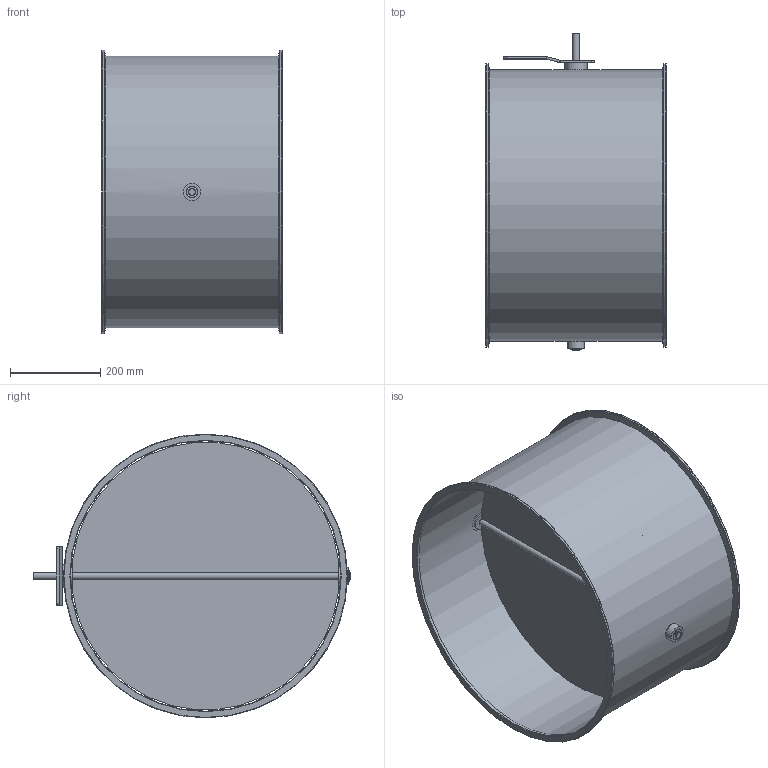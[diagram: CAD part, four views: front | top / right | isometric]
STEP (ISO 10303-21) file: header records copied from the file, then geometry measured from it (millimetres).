
FILE_DESCRIPTION(/* description */ (''),/* implementation_level */ '2;1');
FILE_NAME(/* name */ 'EA112-80B__600_L400_Belimo_Typ_GM.stp',/* time_stamp */ '2017-12-07T10:55:05+01:00',/* author */ (''),/* organization */ (''),/* preprocessor_version */ 'ST-DEVELOPER v11',/* originating_system */ 'SIEMENS UGS NX 6.0',/* authorisation */ '');
FILE_SCHEMA (('CONFIG_CONTROL_DESIGN'));
Length unit declared in the file: millimetre
Products named in the file (1): gars5544kx9b
Bounding box: 400 x 704 x 630 mm (x, y, z)
Volume: 1766072.2 mm3; surface area: 2276200.9 mm2
Topology: 8 solids, 8 shells, 79 faces, 167 edges, 106 vertices
Faces by surface type: plane 36, cylinder 35, torus 6, cone 2
Full cylindrical faces by diameter (mm): 6.1 x7, 15 x3, 25 x3, 25.85 x2, 26 x2, 38 x3, 49 x1, 600 x1, 602 x1, 630 x2
Entity records: 2062 total; most frequent: CARTESIAN_POINT 368, DIRECTION 352, ORIENTED_EDGE 248, AXIS2_PLACEMENT_3D 152, EDGE_LOOP 144, EDGE_CURVE 124, FACE_BOUND 114, VERTEX_POINT 96
